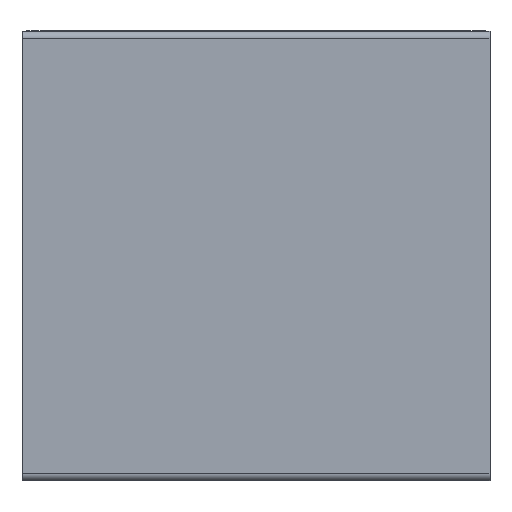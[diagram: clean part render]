
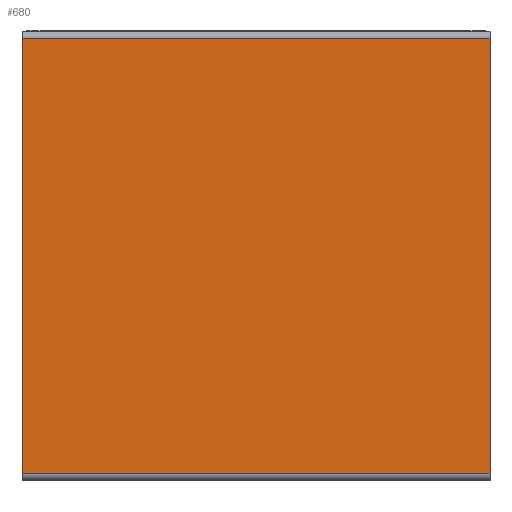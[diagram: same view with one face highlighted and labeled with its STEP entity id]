
A CAD part, left-side view. The second image highlights one B-rep face of the part: STEP entity #680.
In plain terms, the highlighted planar face has unit normal (-1, 0, 0).
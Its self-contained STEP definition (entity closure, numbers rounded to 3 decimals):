
#46 = LINE ( 'NONE', #1326, #1229 ) ;
#55 = DIRECTION ( 'NONE',  ( 1., 0., 0. ) ) ;
#70 = FACE_OUTER_BOUND ( 'NONE', #1694, .T. ) ;
#116 = AXIS2_PLACEMENT_3D ( 'NONE', #369, #55, #1968 ) ;
#184 = CARTESIAN_POINT ( 'NONE',  ( -131., -65., 122. ) ) ;
#369 = CARTESIAN_POINT ( 'NONE',  ( -131., 0., 0. ) ) ;
#380 = ORIENTED_EDGE ( 'NONE', *, *, #2061, .T. ) ;
#514 = DIRECTION ( 'NONE',  ( 0., 0., -1. ) ) ;
#680 = ADVANCED_FACE ( 'NONE', ( #70 ), #681, .F. ) ;
#681 = PLANE ( 'NONE',  #116 ) ;
#684 = EDGE_CURVE ( 'NONE', #1050, #1526, #689, .T. ) ;
#689 = LINE ( 'NONE', #1792, #1290 ) ;
#707 = VECTOR ( 'NONE', #964, 1000. ) ;
#797 = VERTEX_POINT ( 'NONE', #1071 ) ;
#816 = ORIENTED_EDGE ( 'NONE', *, *, #1400, .T. ) ;
#964 = DIRECTION ( 'NONE',  ( 0., 1., 0. ) ) ;
#975 = CARTESIAN_POINT ( 'NONE',  ( -131., -65., 122. ) ) ;
#1050 = VERTEX_POINT ( 'NONE', #1643 ) ;
#1071 = CARTESIAN_POINT ( 'NONE',  ( -131., 65., 122. ) ) ;
#1163 = LINE ( 'NONE', #1305, #1498 ) ;
#1220 = ORIENTED_EDGE ( 'NONE', *, *, #1669, .F. ) ;
#1225 = LINE ( 'NONE', #975, #707 ) ;
#1229 = VECTOR ( 'NONE', #1810, 1000. ) ;
#1238 = ORIENTED_EDGE ( 'NONE', *, *, #684, .T. ) ;
#1290 = VECTOR ( 'NONE', #1976, 1000. ) ;
#1305 = CARTESIAN_POINT ( 'NONE',  ( -131., 65., 0. ) ) ;
#1326 = CARTESIAN_POINT ( 'NONE',  ( -131., 65., 1. ) ) ;
#1400 = EDGE_CURVE ( 'NONE', #1526, #797, #1225, .T. ) ;
#1411 = VERTEX_POINT ( 'NONE', #1440 ) ;
#1440 = CARTESIAN_POINT ( 'NONE',  ( -131., 65., 1. ) ) ;
#1498 = VECTOR ( 'NONE', #514, 1000. ) ;
#1526 = VERTEX_POINT ( 'NONE', #184 ) ;
#1643 = CARTESIAN_POINT ( 'NONE',  ( -131., -65., 1. ) ) ;
#1669 = EDGE_CURVE ( 'NONE', #1050, #1411, #46, .T. ) ;
#1694 = EDGE_LOOP ( 'NONE', ( #816, #380, #1220, #1238 ) ) ;
#1792 = CARTESIAN_POINT ( 'NONE',  ( -131., -65., 0. ) ) ;
#1810 = DIRECTION ( 'NONE',  ( 0., 1., 0. ) ) ;
#1968 = DIRECTION ( 'NONE',  ( 0., 0., -1. ) ) ;
#1976 = DIRECTION ( 'NONE',  ( 0., 0., 1. ) ) ;
#2061 = EDGE_CURVE ( 'NONE', #797, #1411, #1163, .T. ) ;
